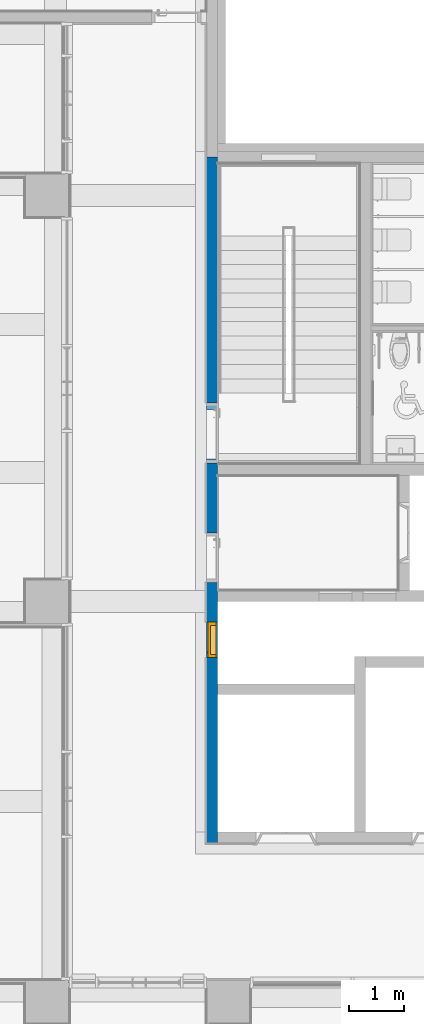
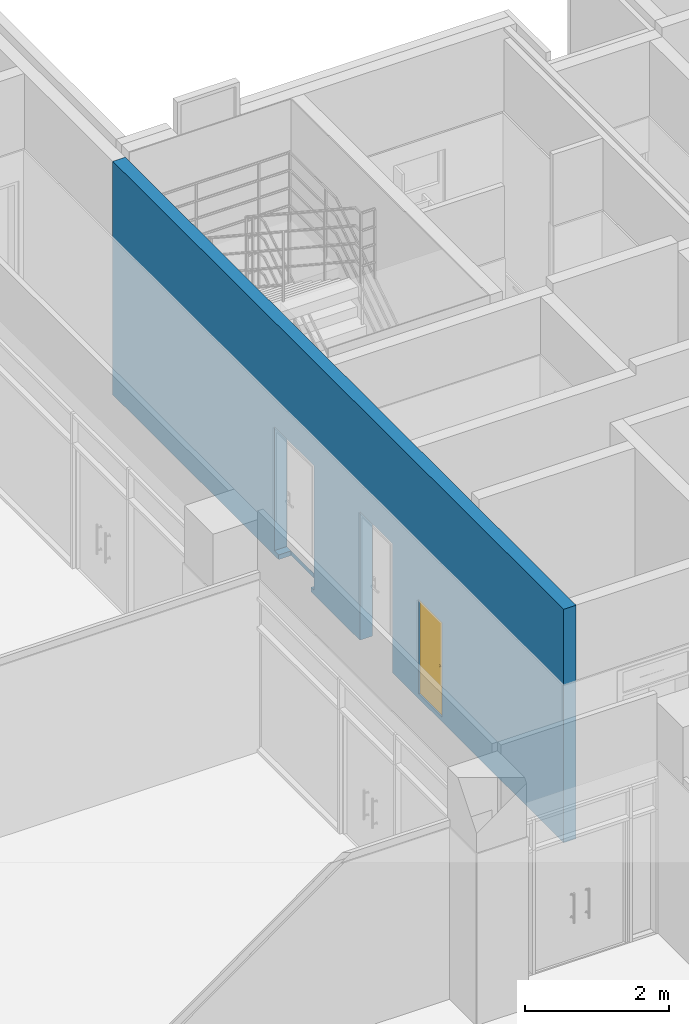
# One storey, part 63 of 76: 1 door, 1 wall, 3 openings.
"""IFC2X3 building model written with IfcOpenShell, lengths in millimetres."""

from ifc_helpers import new_model, entity, si_unit, converted_unit, derived_unit, direction, frame, frame_2d, origin, place, context, subcontext, project, spatial, rectangle, extrude, faceted_brep, source, transform, mapped, material, material_list, layer, layer_set, type_object, type_shapes, element, fill, save


model = new_model("IFC2X3")

# Units and contexts
model_context = context("Model", 3, precision=0.01, world=origin(), true_north=direction((6.123031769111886e-17, 1.0)))
body_context = subcontext(model_context, "Body", "Model", "MODEL_VIEW")
ifc_project = project(units=[si_unit("LENGTHUNIT", "METRE", prefix="MILLI"), si_unit("AREAUNIT", "SQUARE_METRE"), si_unit("VOLUMEUNIT", "CUBIC_METRE"), converted_unit("PLANEANGLEUNIT", "DEGREE", entity("IfcRatioMeasure", 0.017453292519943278), si_unit("PLANEANGLEUNIT", "RADIAN"), dimensions=[0, 0, 0, 0, 0, 0, 0]), si_unit("MASSUNIT", "GRAM", prefix="KILO"), derived_unit("MASSDENSITYUNIT", [(si_unit("MASSUNIT", "GRAM", prefix="KILO"), 1), (si_unit("LENGTHUNIT", "METRE"), -3)]), derived_unit("MOMENTOFINERTIAUNIT", [(si_unit("LENGTHUNIT", "METRE"), 4)]), si_unit("TIMEUNIT", "SECOND"), si_unit("FREQUENCYUNIT", "HERTZ"), si_unit("THERMODYNAMICTEMPERATUREUNIT", "DEGREE_CELSIUS"), derived_unit("THERMALTRANSMITTANCEUNIT", [(si_unit("MASSUNIT", "GRAM", prefix="KILO"), 1), (si_unit("THERMODYNAMICTEMPERATUREUNIT", "KELVIN"), -1), (si_unit("TIMEUNIT", "SECOND"), -3)]), derived_unit("VOLUMETRICFLOWRATEUNIT", [(si_unit("LENGTHUNIT", "METRE"), 3), (si_unit("TIMEUNIT", "SECOND"), -1)]), derived_unit("MASSFLOWRATEUNIT", [(si_unit("MASSUNIT", "GRAM", prefix="KILO"), 1), (si_unit("TIMEUNIT", "SECOND"), -1)]), derived_unit("ROTATIONALFREQUENCYUNIT", [(si_unit("TIMEUNIT", "SECOND"), -1)]), si_unit("ELECTRICCURRENTUNIT", "AMPERE"), si_unit("ELECTRICVOLTAGEUNIT", "VOLT"), si_unit("POWERUNIT", "WATT"), si_unit("FORCEUNIT", "NEWTON", prefix="KILO"), si_unit("ILLUMINANCEUNIT", "LUX"), si_unit("LUMINOUSFLUXUNIT", "LUMEN"), si_unit("LUMINOUSINTENSITYUNIT", "CANDELA"), derived_unit("USERDEFINED", [(si_unit("MASSUNIT", "GRAM", prefix="KILO"), -1), (si_unit("LENGTHUNIT", "METRE"), -2), (si_unit("TIMEUNIT", "SECOND"), 3), (si_unit("LUMINOUSFLUXUNIT", "LUMEN"), 1)]), derived_unit("SOUNDPOWERUNIT", [(si_unit("MASSUNIT", "GRAM", prefix="KILO"), 1), (si_unit("LENGTHUNIT", "METRE"), 2), (si_unit("TIMEUNIT", "SECOND"), -3)]), derived_unit("SOUNDPRESSUREUNIT", [(si_unit("MASSUNIT", "GRAM", prefix="KILO"), 1), (si_unit("LENGTHUNIT", "METRE"), -1), (si_unit("TIMEUNIT", "SECOND"), -2)]), derived_unit("LINEARVELOCITYUNIT", [(si_unit("LENGTHUNIT", "METRE"), 1), (si_unit("TIMEUNIT", "SECOND"), -1)]), si_unit("PRESSUREUNIT", "PASCAL"), derived_unit("USERDEFINED", [(si_unit("LENGTHUNIT", "METRE"), -2), (si_unit("MASSUNIT", "GRAM", prefix="KILO"), 1), (si_unit("TIMEUNIT", "SECOND"), -2)]), derived_unit("LINEARFORCEUNIT", [(si_unit("MASSUNIT", "GRAM", prefix="KILO"), 1), (si_unit("LENGTHUNIT", "METRE"), 1), (si_unit("TIMEUNIT", "SECOND"), -2), (si_unit("LENGTHUNIT", "METRE"), -1)]), derived_unit("PLANARFORCEUNIT", [(si_unit("MASSUNIT", "GRAM", prefix="KILO"), 1), (si_unit("LENGTHUNIT", "METRE"), 1), (si_unit("TIMEUNIT", "SECOND"), -2), (si_unit("LENGTHUNIT", "METRE"), -2)])], contexts=[model_context])

# Site, building, storey
site_placement = place(None, frame((-14167.972527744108, -657.2125860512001, 0.0)))
site = spatial("IfcSite", under=ifc_project, at=site_placement, Name="Default", CompositionType="ELEMENT")
building_placement = place(site_placement, origin())
building = spatial("IfcBuilding", under=site, at=building_placement, Name="Sample Building", CompositionType="ELEMENT")
storey_placement = place(building_placement, frame((0.0, 0.0, 9300.0)))
storey = spatial("IfcBuildingStorey", under=building, at=storey_placement, Name="지상 3층", CompositionType="ELEMENT", Elevation=9300.000000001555)

# Wall, openings, door
ifc_material_1 = material(Name="KBIMS-콘크리트")
ifc_layer = layer(ifc_material_1, 200.0)
ifc_layer_set = layer_set([ifc_layer], Name="기본 벽:WA111-철근콘크리트구조 벽 200mm_CW1")
wall_type = type_object("IfcWallType", Name="기본 벽:WA111-철근콘크리트구조 벽 200mm_CW1", PredefinedType="STANDARD", material=ifc_layer_set)
wall_placement = place(storey_placement, frame((30167.96376153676, 15557.30294707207, -2.297844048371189e-09), z_axis=(0.0, 0.0, 1.0), x_axis=(0.0, 1.0, 0.0)))
wall = element("IfcWall", 1, at=wall_placement, inside=storey, type_object=wall_type, Name="기본 벽:WA111-철근콘크리트구조 벽 200mm_CW1", ObjectType="기본 벽:WA111-철근콘크리트구조 벽 200mm_CW1", context=body_context, shape_type="Brep", body=[
    faceted_brep([(4024.874731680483, -100.0, 1680.0), (4024.874731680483, -100.0, 80.0), (3374.8747316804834, -100.0, 80.0), (3374.8747316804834, -100.0, 1680.0), (6919.874680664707, -100.0, 80.0), (6919.874680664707, -100.0, 2180.0), (8019.874680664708, -100.0, 2180.0), (8019.874680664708, -100.0, 80.0), (12499.909360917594, -100.0, 3950.0), (6899.909364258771, -100.0, 3950.0), (6699.909364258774, -100.0, 3950.0), (4599.909360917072, -100.0, 3950.0), (4399.90936091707, -100.0, 3950.0), (199.9093480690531, -100.0, 3950.0), (0.0, -100.0, 3950.0), (0.0, -100.0, 80.0), (0.0, -100.0, 0.0), (200.0, -100.0, 0.0), (2699.909362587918, -100.0, 0.0), (2899.9093625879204, -100.0, 0.0), (4399.909360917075, -100.0, 0.0), (4599.909360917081, -100.0, 0.0), (4599.909360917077, -100.0, 3200.0), (6681.909364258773, -100.0, 3200.0), (6681.909364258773, -100.0, 0.0), (6699.909364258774, -100.0, 0.0), (6899.909364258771, -100.0, 0.0), (12399.909360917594, -100.0, 0.0), (12499.909360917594, -100.0, 0.0), (4024.874731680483, 100.0, 80.0), (4024.874731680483, 100.0, 1680.0), (3374.8747316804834, 100.0, 1680.0), (3374.8747316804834, 100.0, 80.0), (0.0, 100.0, 3950.0), (4199.909669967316, 100.0, 3950.0), (4599.909669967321, 100.0, 3950.0), (12499.909360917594, 100.0, 3950.0), (12499.909360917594, 100.0, 80.0), (12499.909360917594, 100.0, 0.0), (7899.87468066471, 100.0, 0.0), (7899.87468066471, 100.0, 80.0), (8019.874680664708, 100.0, 80.0), (8019.874680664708, 100.0, 2180.0), (6919.874680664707, 100.0, 2180.0), (6919.874680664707, 100.0, 80.0), (6999.8746806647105, 100.0, 80.0), (6999.8746806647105, 100.0, 0.0), (5649.874678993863, 100.0, 0.0), (5649.874678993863, 100.0, 80.0), (5649.874678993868, 100.0, 2180.0), (4749.874678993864, 100.0, 2180.0), (4749.874678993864, 100.0, 80.0), (4749.874678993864, 100.0, 0.0), (0.0, 100.0, 0.0), (0.0, 100.0, 80.0), (0.0, 100.0, 3700.0), (4749.874678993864, -99.73898654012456, 0.0), (4599.909360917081, -99.73898654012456, 0.0), (4749.874678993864, -99.73898654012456, 2180.0), (4749.874678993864, -99.73898654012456, 80.0), (5649.874678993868, -99.73898654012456, 2180.0), (5649.874678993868, -99.73898654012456, 0.0), (5649.874678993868, -99.73898654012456, 80.0), (7899.87468066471, -98.44318928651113, 80.0), (6999.8746806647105, -98.44318928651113, 80.0), (7899.87468066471, -98.44318928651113, 2.329247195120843e-09), (6999.8746806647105, -98.44318928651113, 0.0), (4599.909360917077, -99.73898654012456, 3200.0), (6681.909364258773, -99.73898654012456, 2.297844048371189e-09), (6681.909364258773, -99.73898654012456, 3200.0)], [[[0, 1, 2, 3], [4, 5, 6, 7], [8, 9, 10, 11, 12, 13, 14, 15, 16, 17, 18, 19, 20, 21, 22, 23, 24, 25, 26, 27, 28]], [[29, 30, 31, 32], [33, 34, 35, 36, 37, 38, 39, 40, 41, 42, 43, 44, 45, 46, 47, 48, 49, 50, 51, 52, 53, 54, 55]], [[16, 53, 52, 56, 57, 21, 20, 19, 18, 17]], [[28, 38, 37, 36, 8]], [[53, 16, 15, 14, 33, 55, 54]], [[9, 8, 36, 35, 34, 33, 14, 13, 12, 11, 10]], [[30, 29, 1, 0]], [[31, 30, 0, 3]], [[32, 31, 3, 2]], [[29, 32, 2, 1]], [[52, 51, 50, 58, 59, 56]], [[50, 49, 60, 58]], [[49, 48, 47, 61, 62, 60]], [[5, 4, 44, 43]], [[6, 5, 43, 42]], [[7, 6, 42, 41]], [[4, 7, 41, 40, 63, 64, 45, 44]], [[65, 63, 40, 39]], [[64, 66, 46, 45]], [[63, 65, 66, 64]], [[67, 57, 56, 59, 58, 60, 62, 61, 68, 69]], [[67, 69, 23, 22]], [[57, 67, 22, 21]], [[69, 68, 24, 23]], [[38, 28, 27, 26, 25, 24, 68, 61, 47, 46, 66, 65, 39]]], outer=[[False, False, True], [False, True], [True], [True], [True], [True], [True], [True], [True], [True], [True], [True], [True], [True], [True], [True], [True], [True], [True], [True], [True], [True], [True], [True], [True]]),
])
opening_1_placement = place(wall_placement, frame((3374.8747316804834, -100.0, 80.0)))
opening_1 = element("IfcOpeningElement", 2, at=opening_1_placement, cuts=wall, Name="DR872-샤프트 점검구(스테인리스 스틸):DR872-샤프트 점검구(스테인리스 스틸)_650x1600:1", ObjectType="Opening", context=body_context, shape_type="SweptSolid", body=[
    extrude(rectangle(XDim=1600.0, YDim=649.9999999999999, at=frame_2d((800.0, 324.99999999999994), x_axis=(1.0, 0.0))), frame((0.0, 0.0, 0.0), z_axis=(0.0, 1.0, 0.0), x_axis=(0.0, 0.0, 1.0)), (0.0, 0.0, 1.0), 200.0),
])
opening_2_placement = place(wall_placement, frame((5649.874678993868, 100.0, 80.0)))
element("IfcOpeningElement", 3, at=opening_2_placement, cuts=wall, Name="DR111-외여닫이문(철재, 일반):DR111-외여닫이문(철재, 일반) 900x2100mm:1", ObjectType="Opening", context=body_context, shape_type="SweptSolid", body=[
    extrude(rectangle(XDim=2099.999999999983, YDim=900.0000000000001, at=frame_2d((1049.999999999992, 450.00000000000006), x_axis=(1.0, 0.0))), frame((0.0, 0.0, 0.0), z_axis=(0.0, -1.0, 0.0), x_axis=(0.0, 0.0, 1.0)), (0.0, 0.0, 1.0), 200.0),
])
opening_3_placement = place(wall_placement, frame((8019.874680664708, 100.0, 80.0)))
element("IfcOpeningElement", 4, at=opening_3_placement, cuts=wall, Name="DR111-외여닫이문(철재, 일반):DR111-외여닫이문(철재, 일반) 1100x2100mm 2:1", ObjectType="Opening", context=body_context, shape_type="SweptSolid", body=[
    extrude(rectangle(XDim=2099.999999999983, YDim=1100.0, at=frame_2d((1049.9999999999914, 550.0), x_axis=(1.0, 0.0))), frame((0.0, 0.0, 0.0), z_axis=(0.0, -1.0, 0.0), x_axis=(0.0, 0.0, 1.0)), (0.0, 0.0, 1.0), 200.0),
])
ifc_material_2 = material(Name="KBIMS-스테인리스 스틸_도금")
ifc_material_list_1 = material_list([ifc_material_2, ifc_material_2, ifc_material_2, ifc_material_2])
ifc_material_list_2 = material_list([ifc_material_2, ifc_material_2, ifc_material_2, ifc_material_2])
door_style = type_object("IfcDoorStyle", Name="DR872-샤프트 점검구(스테인리스 스틸):DR872-샤프트 점검구(스테인리스 스틸)_650x1600", ConstructionType="NOTDEFINED", OperationType="SINGLE_SWING_LEFT", ParameterTakesPrecedence=False, Sizeable=False, material=ifc_material_list_2)
shared_shape = source(origin(), body_context, "Body", "Brep", [
    faceted_brep([(105.0, 125.0, 782.6794919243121), (109.14213562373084, 125.0, 785.85786437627), (102.50000000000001, 125.0, 787.0096189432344), (98.88228567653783, 125.0, 785.5111126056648), (100.17638090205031, 125.0, 780.6814834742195), (105.60660171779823, 125.0, 789.3933982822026), (112.32050807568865, 125.0, 790.0), (107.99038105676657, 125.0, 792.5000000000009), (109.488887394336, 125.0, 796.1177143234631), (114.31851652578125, 125.0, 794.8236190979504), (110.0, 125.0, 800.0), (115.0, 125.0, 800.0), (109.48888739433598, 125.0, 803.8822856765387), (114.31851652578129, 125.0, 805.1763809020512), (107.99038105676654, 125.0, 807.5000000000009), (112.32050807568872, 125.0, 810.0), (105.60660171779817, 125.0, 810.6066017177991), (109.14213562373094, 125.0, 814.1421356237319), (102.49999999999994, 125.0, 812.9903810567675), (105.0, 125.0, 817.3205080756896), (98.88228567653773, 125.0, 814.4888873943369), (100.17638090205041, 125.0, 819.3185165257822), (95.0, 125.0, 815.0), (95.0, 125.0, 820.0), (91.11771432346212, 125.0, 814.4888873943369), (89.8236190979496, 125.0, 819.3185165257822), (87.49999999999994, 125.0, 812.9903810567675), (85.0, 125.0, 817.3205080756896), (84.39339828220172, 125.0, 810.6066017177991), (80.85786437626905, 125.0, 814.142135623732), (82.00961894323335, 125.0, 807.5000000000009), (77.67949192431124, 125.0, 810.0), (75.6814834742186, 125.0, 805.1763809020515), (80.51111260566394, 125.0, 803.8822856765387), (75.0, 125.0, 800.0), (80.0, 125.0, 800.0), (75.68148347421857, 125.0, 794.8236190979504), (80.51111260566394, 125.0, 796.117714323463), (77.67949192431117, 125.0, 790.0), (82.00961894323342, 125.0, 792.5000000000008), (80.85786437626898, 125.0, 785.85786437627), (84.39339828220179, 125.0, 789.3933982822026), (85.0, 125.0, 782.6794919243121), (87.50000000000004, 125.0, 787.0096189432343), (89.8236190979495, 125.0, 780.6814834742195), (91.11771432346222, 125.0, 785.5111126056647), (95.0, 125.0, 780.0), (95.0, 125.0, 785.0), (105.0, 130.0, 817.3205080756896), (109.14213562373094, 130.0, 814.1421356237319), (102.49999999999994, 130.0, 812.9903810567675), (98.88228567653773, 130.0, 814.4888873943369), (100.17638090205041, 130.0, 819.3185165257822), (105.60660171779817, 130.0, 810.6066017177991), (112.32050807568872, 130.0, 810.0), (107.99038105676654, 130.0, 807.5000000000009), (109.48888739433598, 130.0, 803.8822856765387), (114.31851652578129, 130.0, 805.1763809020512), (110.0, 130.0, 800.0), (115.0, 130.0, 800.0), (109.488887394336, 130.0, 796.1177143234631), (114.31851652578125, 130.0, 794.8236190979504), (107.99038105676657, 130.0, 792.5000000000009), (112.32050807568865, 130.0, 790.0), (105.60660171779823, 130.0, 789.3933982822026), (109.14213562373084, 130.0, 785.85786437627), (102.50000000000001, 130.0, 787.0096189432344), (105.0, 130.0, 782.6794919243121), (98.88228567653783, 130.0, 785.5111126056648), (100.17638090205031, 130.0, 780.6814834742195), (95.0, 130.0, 785.0), (95.0, 130.0, 780.0), (91.11771432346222, 130.0, 785.5111126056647), (89.8236190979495, 130.0, 780.6814834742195), (87.50000000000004, 130.0, 787.0096189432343), (85.0, 130.0, 782.6794919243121), (84.39339828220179, 130.0, 789.3933982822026), (80.85786437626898, 130.0, 785.85786437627), (82.00961894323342, 130.0, 792.5000000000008), (77.67949192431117, 130.0, 790.0), (75.68148347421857, 130.0, 794.8236190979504), (80.51111260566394, 130.0, 796.117714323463), (75.0, 130.0, 800.0), (80.0, 130.0, 800.0), (75.6814834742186, 130.0, 805.1763809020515), (80.51111260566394, 130.0, 803.8822856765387), (77.67949192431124, 130.0, 810.0), (82.00961894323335, 130.0, 807.5000000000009), (80.85786437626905, 130.0, 814.142135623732), (84.39339828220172, 130.0, 810.6066017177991), (85.0, 130.0, 817.3205080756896), (87.49999999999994, 130.0, 812.9903810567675), (89.8236190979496, 130.0, 819.3185165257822), (91.11771432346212, 130.0, 814.4888873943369), (95.0, 130.0, 820.0), (95.0, 130.0, 815.0)], [[[0, 1, 2]], [[0, 2, 3]], [[3, 4, 0]], [[2, 1, 5]], [[6, 5, 1]], [[7, 5, 6]], [[8, 7, 6]], [[8, 6, 9]], [[8, 9, 10]], [[10, 9, 11]], [[12, 10, 11]], [[12, 11, 13]], [[14, 12, 13]], [[14, 13, 15]], [[16, 14, 15]], [[15, 17, 16]], [[17, 18, 16]], [[18, 17, 19]], [[18, 19, 20]], [[21, 20, 19]], [[20, 21, 22]], [[22, 21, 23]], [[23, 24, 22]], [[24, 23, 25]], [[24, 25, 26]], [[27, 26, 25]], [[27, 28, 26]], [[27, 29, 28]], [[30, 28, 29]], [[31, 30, 29]], [[32, 30, 31]], [[33, 30, 32]], [[33, 32, 34]], [[34, 35, 33]], [[36, 35, 34]], [[36, 37, 35]], [[37, 36, 38]], [[39, 37, 38]], [[39, 38, 40]], [[39, 40, 41]], [[40, 42, 41]], [[41, 42, 43]], [[43, 42, 44]], [[44, 45, 43]], [[46, 45, 44]], [[4, 47, 46]], [[45, 46, 47]], [[4, 3, 47]], [[48, 49, 50]], [[48, 50, 51]], [[51, 52, 48]], [[50, 49, 53]], [[54, 53, 49]], [[55, 53, 54]], [[56, 55, 54]], [[56, 54, 57]], [[56, 57, 58]], [[58, 57, 59]], [[60, 58, 59]], [[60, 59, 61]], [[62, 60, 61]], [[62, 61, 63]], [[64, 62, 63]], [[63, 65, 64]], [[65, 66, 64]], [[66, 65, 67]], [[66, 67, 68]], [[69, 68, 67]], [[68, 69, 70]], [[70, 69, 71]], [[71, 72, 70]], [[72, 71, 73]], [[72, 73, 74]], [[75, 74, 73]], [[75, 76, 74]], [[75, 77, 76]], [[78, 76, 77]], [[79, 78, 77]], [[80, 78, 79]], [[81, 78, 80]], [[81, 80, 82]], [[82, 83, 81]], [[84, 83, 82]], [[84, 85, 83]], [[85, 84, 86]], [[87, 85, 86]], [[87, 86, 88]], [[87, 88, 89]], [[88, 90, 89]], [[89, 90, 91]], [[91, 90, 92]], [[92, 93, 91]], [[94, 93, 92]], [[52, 95, 94]], [[93, 94, 95]], [[52, 51, 95]], [[10, 58, 60, 8]], [[8, 60, 62, 7]], [[2, 5, 64, 66]], [[62, 64, 5, 7]], [[3, 2, 66, 68]], [[70, 47, 3, 68]], [[45, 72, 74, 43]], [[43, 74, 76, 41]], [[37, 39, 78, 81]], [[76, 78, 39, 41]], [[35, 37, 81, 83]], [[45, 47, 70, 72]], [[35, 83, 85, 33]], [[33, 85, 87, 30]], [[26, 28, 89, 91]], [[87, 89, 28, 30]], [[24, 26, 91, 93]], [[95, 22, 24, 93]], [[20, 51, 50, 18]], [[18, 50, 53, 16]], [[12, 14, 55, 56]], [[53, 55, 14, 16]], [[10, 12, 56, 58]], [[20, 22, 95, 51]], [[57, 13, 11, 59]], [[54, 15, 13, 57]], [[19, 17, 49, 48]], [[54, 49, 17, 15]], [[21, 19, 48, 52]], [[23, 21, 52, 94]], [[92, 25, 23, 94]], [[90, 27, 25, 92]], [[31, 29, 88, 86]], [[90, 88, 29, 27]], [[32, 31, 86, 84]], [[34, 32, 84, 82]], [[80, 36, 34, 82]], [[79, 38, 36, 80]], [[42, 40, 77, 75]], [[79, 77, 40, 38]], [[44, 42, 75, 73]], [[46, 44, 73, 71]], [[69, 4, 46, 71]], [[67, 0, 4, 69]], [[6, 1, 65, 63]], [[67, 65, 1, 0]], [[9, 6, 63, 61]], [[11, 9, 61, 59]]]),
    faceted_brep([(85.0, 180.0, 782.6794919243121), (80.85786437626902, 180.0, 785.85786437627), (87.4999999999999, 180.0, 787.0096189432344), (91.11771432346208, 180.0, 785.5111126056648), (89.82361909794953, 180.0, 780.6814834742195), (84.39339828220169, 180.0, 789.3933982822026), (77.6794919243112, 180.0, 790.0), (82.00961894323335, 180.0, 792.5000000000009), (80.51111260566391, 180.0, 796.1177143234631), (75.6814834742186, 180.0, 794.8236190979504), (80.0, 180.0, 800.0), (75.0, 180.0, 800.0), (80.51111260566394, 180.0, 803.8822856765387), (75.68148347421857, 180.0, 805.1763809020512), (82.00961894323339, 180.0, 807.5000000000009), (77.67949192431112, 180.0, 810.0), (84.39339828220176, 180.0, 810.6066017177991), (80.85786437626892, 180.0, 814.1421356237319), (87.49999999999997, 180.0, 812.9903810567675), (85.0, 180.0, 817.3205080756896), (91.11771432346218, 180.0, 814.4888873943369), (89.82361909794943, 180.0, 819.3185165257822), (95.0, 180.0, 815.0), (95.0, 180.0, 820.0), (98.8822856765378, 180.0, 814.4888873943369), (100.17638090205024, 180.0, 819.3185165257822), (102.49999999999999, 180.0, 812.9903810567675), (105.0, 180.0, 817.3205080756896), (105.6066017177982, 180.0, 810.6066017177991), (109.1421356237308, 180.0, 814.142135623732), (107.99038105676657, 180.0, 807.5000000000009), (112.32050807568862, 180.0, 810.0), (114.31851652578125, 180.0, 805.1763809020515), (109.48888739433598, 180.0, 803.8822856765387), (115.0, 180.0, 800.0), (110.0, 180.0, 800.0), (114.31851652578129, 180.0, 794.8236190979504), (109.48888739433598, 180.0, 796.117714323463), (112.32050807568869, 180.0, 790.0), (107.9903810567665, 180.0, 792.5000000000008), (109.14213562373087, 180.0, 785.85786437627), (105.60660171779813, 180.0, 789.3933982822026), (105.0, 180.0, 782.6794919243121), (102.49999999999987, 180.0, 787.0096189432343), (100.17638090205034, 180.0, 780.6814834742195), (98.8822856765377, 180.0, 785.5111126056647), (95.0, 180.0, 780.0), (95.0, 180.0, 785.0), (85.0, 175.0, 817.3205080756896), (80.85786437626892, 175.0, 814.1421356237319), (87.49999999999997, 175.0, 812.9903810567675), (91.11771432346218, 175.0, 814.4888873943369), (89.82361909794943, 175.0, 819.3185165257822), (84.39339828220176, 175.0, 810.6066017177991), (77.67949192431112, 175.0, 810.0), (82.00961894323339, 175.0, 807.5000000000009), (80.51111260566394, 175.0, 803.8822856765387), (75.68148347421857, 175.0, 805.1763809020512), (80.0, 175.0, 800.0), (75.0, 175.0, 800.0), (80.51111260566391, 175.0, 796.1177143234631), (75.6814834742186, 175.0, 794.8236190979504), (82.00961894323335, 175.0, 792.5000000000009), (77.6794919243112, 175.0, 790.0), (84.39339828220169, 175.0, 789.3933982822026), (80.85786437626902, 175.0, 785.85786437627), (87.4999999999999, 175.0, 787.0096189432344), (85.0, 175.0, 782.6794919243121), (91.11771432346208, 175.0, 785.5111126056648), (89.82361909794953, 175.0, 780.6814834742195), (95.0, 175.0, 785.0), (95.0, 175.0, 780.0), (98.8822856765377, 175.0, 785.5111126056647), (100.17638090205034, 175.0, 780.6814834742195), (102.49999999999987, 175.0, 787.0096189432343), (105.0, 175.0, 782.6794919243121), (105.60660171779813, 175.0, 789.3933982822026), (109.14213562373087, 175.0, 785.85786437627), (107.9903810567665, 175.0, 792.5000000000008), (112.32050807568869, 175.0, 790.0), (114.31851652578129, 175.0, 794.8236190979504), (109.48888739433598, 175.0, 796.117714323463), (115.0, 175.0, 800.0), (110.0, 175.0, 800.0), (114.31851652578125, 175.0, 805.1763809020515), (109.48888739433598, 175.0, 803.8822856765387), (112.32050807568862, 175.0, 810.0), (107.99038105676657, 175.0, 807.5000000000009), (109.1421356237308, 175.0, 814.142135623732), (105.6066017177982, 175.0, 810.6066017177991), (105.0, 175.0, 817.3205080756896), (102.49999999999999, 175.0, 812.9903810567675), (100.17638090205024, 175.0, 819.3185165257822), (98.8822856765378, 175.0, 814.4888873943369), (95.0, 175.0, 820.0), (95.0, 175.0, 815.0)], [[[0, 1, 2]], [[0, 2, 3]], [[3, 4, 0]], [[2, 1, 5]], [[6, 5, 1]], [[7, 5, 6]], [[8, 7, 6]], [[8, 6, 9]], [[8, 9, 10]], [[10, 9, 11]], [[12, 10, 11]], [[12, 11, 13]], [[14, 12, 13]], [[14, 13, 15]], [[16, 14, 15]], [[15, 17, 16]], [[17, 18, 16]], [[18, 17, 19]], [[18, 19, 20]], [[21, 20, 19]], [[20, 21, 22]], [[22, 21, 23]], [[23, 24, 22]], [[24, 23, 25]], [[24, 25, 26]], [[27, 26, 25]], [[27, 28, 26]], [[27, 29, 28]], [[30, 28, 29]], [[31, 30, 29]], [[32, 30, 31]], [[33, 30, 32]], [[33, 32, 34]], [[34, 35, 33]], [[36, 35, 34]], [[36, 37, 35]], [[37, 36, 38]], [[39, 37, 38]], [[39, 38, 40]], [[39, 40, 41]], [[40, 42, 41]], [[41, 42, 43]], [[43, 42, 44]], [[44, 45, 43]], [[46, 45, 44]], [[4, 47, 46]], [[45, 46, 47]], [[4, 3, 47]], [[48, 49, 50]], [[48, 50, 51]], [[51, 52, 48]], [[50, 49, 53]], [[54, 53, 49]], [[55, 53, 54]], [[56, 55, 54]], [[56, 54, 57]], [[56, 57, 58]], [[58, 57, 59]], [[60, 58, 59]], [[60, 59, 61]], [[62, 60, 61]], [[62, 61, 63]], [[64, 62, 63]], [[63, 65, 64]], [[65, 66, 64]], [[66, 65, 67]], [[66, 67, 68]], [[69, 68, 67]], [[68, 69, 70]], [[70, 69, 71]], [[71, 72, 70]], [[72, 71, 73]], [[72, 73, 74]], [[75, 74, 73]], [[75, 76, 74]], [[75, 77, 76]], [[78, 76, 77]], [[79, 78, 77]], [[80, 78, 79]], [[81, 78, 80]], [[81, 80, 82]], [[82, 83, 81]], [[84, 83, 82]], [[84, 85, 83]], [[85, 84, 86]], [[87, 85, 86]], [[87, 86, 88]], [[87, 88, 89]], [[88, 90, 89]], [[89, 90, 91]], [[91, 90, 92]], [[92, 93, 91]], [[94, 93, 92]], [[52, 95, 94]], [[93, 94, 95]], [[52, 51, 95]], [[35, 83, 85, 33]], [[33, 85, 87, 30]], [[26, 28, 89, 91]], [[87, 89, 28, 30]], [[24, 26, 91, 93]], [[95, 22, 24, 93]], [[20, 51, 50, 18]], [[18, 50, 53, 16]], [[12, 14, 55, 56]], [[53, 55, 14, 16]], [[10, 12, 56, 58]], [[20, 22, 95, 51]], [[10, 58, 60, 8]], [[8, 60, 62, 7]], [[2, 5, 64, 66]], [[62, 64, 5, 7]], [[3, 2, 66, 68]], [[70, 47, 3, 68]], [[45, 72, 74, 43]], [[43, 74, 76, 41]], [[37, 39, 78, 81]], [[76, 78, 39, 41]], [[35, 37, 81, 83]], [[45, 47, 70, 72]], [[80, 36, 34, 82]], [[79, 38, 36, 80]], [[42, 40, 77, 75]], [[79, 77, 40, 38]], [[44, 42, 75, 73]], [[46, 44, 73, 71]], [[69, 4, 46, 71]], [[67, 0, 4, 69]], [[6, 1, 65, 63]], [[67, 65, 1, 0]], [[9, 6, 63, 61]], [[11, 9, 61, 59]], [[57, 13, 11, 59]], [[54, 15, 13, 57]], [[19, 17, 49, 48]], [[54, 49, 17, 15]], [[21, 19, 48, 52]], [[23, 21, 52, 94]], [[92, 25, 23, 94]], [[90, 27, 25, 92]], [[31, 29, 88, 86]], [[90, 88, 29, 27]], [[32, 31, 86, 84]], [[34, 32, 84, 82]]]),
    faceted_brep([(620.0, 175.0, 1570.0), (30.0, 175.0, 1570.0), (30.0, 130.0, 1570.0), (620.0, 130.0, 1570.0), (620.0, 175.0, 30.0), (620.0, 130.0, 30.0), (30.0, 130.0, 30.0), (30.0, 175.0, 30.0)], [[[0, 1, 2, 3]], [[4, 5, 6, 7]], [[1, 0, 4, 7]], [[2, 1, 7, 6]], [[3, 2, 6, 5]], [[0, 3, 5, 4]]]),
    faceted_brep([(30.0, 130.0, 1570.0), (30.0, 175.0, 1570.0), (620.0, 175.0, 1570.0), (620.0, 130.0, 1570.0), (60.0, 25.0, 1540.0), (60.0, 130.0, 1540.0), (590.0, 130.0, 1540.0), (590.0, 25.0, 1540.0), (0.0, 175.0, 1600.0), (0.0, 25.0, 1600.0), (650.0, 25.0, 1600.0), (650.0, 175.0, 1600.0), (620.0, 175.0, 30.0), (620.0, 130.0, 30.0), (590.0, 130.0, 60.0), (590.0, 25.0, 60.0), (650.0, 25.0, 0.0), (650.0, 175.0, 0.0), (30.0, 175.0, 30.0), (30.0, 130.0, 30.0), (60.0, 130.0, 60.0), (60.0, 25.0, 60.0), (0.0, 25.0, 0.0), (0.0, 175.0, 0.0)], [[[0, 1, 2, 3]], [[4, 5, 6, 7]], [[8, 9, 10, 11]], [[3, 2, 12, 13]], [[7, 6, 14, 15]], [[11, 10, 16, 17]], [[13, 12, 18, 19]], [[15, 14, 20, 21]], [[17, 16, 22, 23]], [[19, 18, 1, 0]], [[3, 13, 19, 0], [5, 20, 14, 6]], [[21, 20, 5, 4]], [[7, 15, 21, 4], [9, 22, 16, 10]], [[23, 22, 9, 8]], [[11, 17, 23, 8], [1, 18, 12, 2]]], outer=[[True], [True], [True], [True], [True], [True], [True], [True], [True], [True], [True, False], [True], [False, True], [True], [True, False]]),
])
type_shapes(door_style, [shared_shape])
door_placement = place(opening_1_placement, frame((0.0, 0.0, 2.2973836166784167e-09)))
door = element("IfcDoor", 5, at=door_placement, inside=storey, type_object=door_style, material=ifc_material_list_1, Name="DR872-샤프트 점검구(스테인리스 스틸):DR872-샤프트 점검구(스테인리스 스틸)_650x1600", ObjectType="DR872-샤프트 점검구(스테인리스 스틸):DR872-샤프트 점검구(스테인리스 스틸)_650x1600", OverallHeight=1600.0, OverallWidth=649.9999999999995, context=body_context, shape_type="MappedRepresentation", body=[
    mapped(shared_shape, transform((0.0, 0.0, 0.0), scale=1.0)),
])
fill(opening_1, door)

save(model, "model.ifc")
